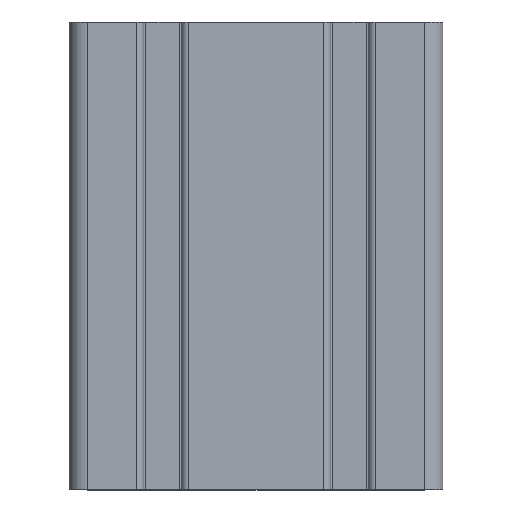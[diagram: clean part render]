
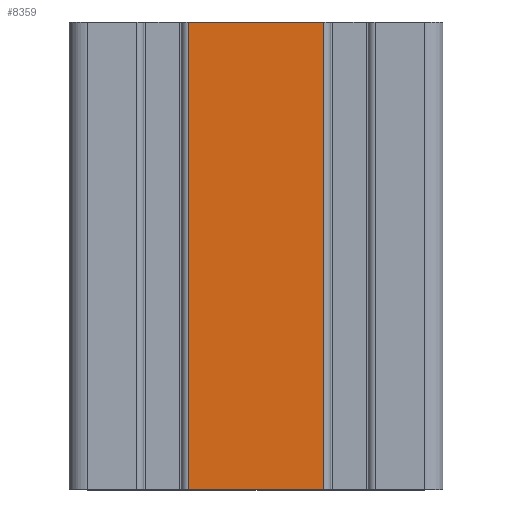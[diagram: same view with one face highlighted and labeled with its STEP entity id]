
A CAD part, top view. The second image highlights one B-rep face of the part: STEP entity #8359.
In plain terms, the highlighted planar face has unit normal (0, 0, 1).
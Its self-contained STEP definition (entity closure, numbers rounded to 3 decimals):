
#46 = VECTOR ( 'NONE', #3114, 1000. ) ;
#379 = EDGE_LOOP ( 'NONE', ( #8157, #4025, #3570, #6216 ) ) ;
#899 = EDGE_CURVE ( 'NONE', #1762, #2522, #9228, .T. ) ;
#1762 = VERTEX_POINT ( 'NONE', #1771 ) ;
#1771 = CARTESIAN_POINT ( 'NONE',  ( 14.5, 50., 40. ) ) ;
#1834 = EDGE_CURVE ( 'NONE', #10510, #3756, #6801, .T. ) ;
#1928 = DIRECTION ( 'NONE',  ( 1., 0., 0. ) ) ;
#2522 = VERTEX_POINT ( 'NONE', #3597 ) ;
#3114 = DIRECTION ( 'NONE',  ( 0., -1., 0. ) ) ;
#3570 = ORIENTED_EDGE ( 'NONE', *, *, #4122, .F. ) ;
#3597 = CARTESIAN_POINT ( 'NONE',  ( 14.5, -50., 40. ) ) ;
#3756 = VERTEX_POINT ( 'NONE', #4345 ) ;
#3957 = PLANE ( 'NONE',  #4639 ) ;
#4025 = ORIENTED_EDGE ( 'NONE', *, *, #899, .F. ) ;
#4122 = EDGE_CURVE ( 'NONE', #10510, #1762, #8884, .T. ) ;
#4345 = CARTESIAN_POINT ( 'NONE',  ( -14.5, -50., 40. ) ) ;
#4633 = FACE_OUTER_BOUND ( 'NONE', #379, .T. ) ;
#4639 = AXIS2_PLACEMENT_3D ( 'NONE', #10931, #8780, #9641 ) ;
#4818 = CARTESIAN_POINT ( 'NONE',  ( 14.5, 50., 40. ) ) ;
#5483 = CARTESIAN_POINT ( 'NONE',  ( -14.5, 50., 40. ) ) ;
#6088 = VECTOR ( 'NONE', #1928, 1000. ) ;
#6216 = ORIENTED_EDGE ( 'NONE', *, *, #1834, .T. ) ;
#6801 = LINE ( 'NONE', #9716, #10776 ) ;
#7924 = LINE ( 'NONE', #10677, #6088 ) ;
#8019 = CARTESIAN_POINT ( 'NONE',  ( -14.5, 50., 40. ) ) ;
#8052 = EDGE_CURVE ( 'NONE', #3756, #2522, #7924, .T. ) ;
#8130 = DIRECTION ( 'NONE',  ( 1., 0., 0. ) ) ;
#8157 = ORIENTED_EDGE ( 'NONE', *, *, #8052, .T. ) ;
#8359 = ADVANCED_FACE ( 'NONE', ( #4633 ), #3957, .F. ) ;
#8780 = DIRECTION ( 'NONE',  ( 0., 0., -1. ) ) ;
#8884 = LINE ( 'NONE', #8019, #9122 ) ;
#9122 = VECTOR ( 'NONE', #8130, 1000. ) ;
#9228 = LINE ( 'NONE', #4818, #46 ) ;
#9641 = DIRECTION ( 'NONE',  ( -1., 0., 0. ) ) ;
#9716 = CARTESIAN_POINT ( 'NONE',  ( -14.5, 50., 40. ) ) ;
#10510 = VERTEX_POINT ( 'NONE', #5483 ) ;
#10586 = DIRECTION ( 'NONE',  ( 0., -1., 0. ) ) ;
#10677 = CARTESIAN_POINT ( 'NONE',  ( -14.5, -50., 40. ) ) ;
#10776 = VECTOR ( 'NONE', #10586, 1000. ) ;
#10931 = CARTESIAN_POINT ( 'NONE',  ( -14.5, 50., 40. ) ) ;
